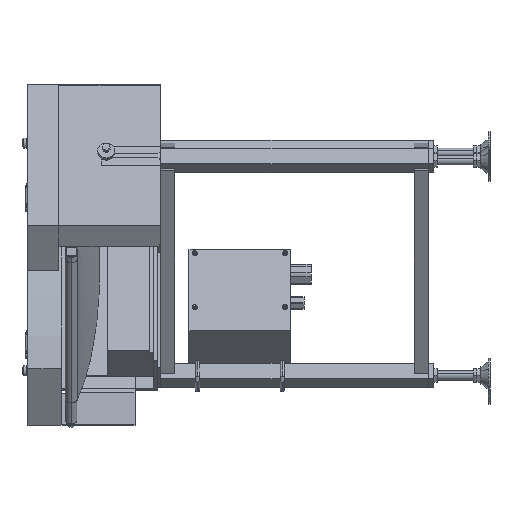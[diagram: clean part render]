
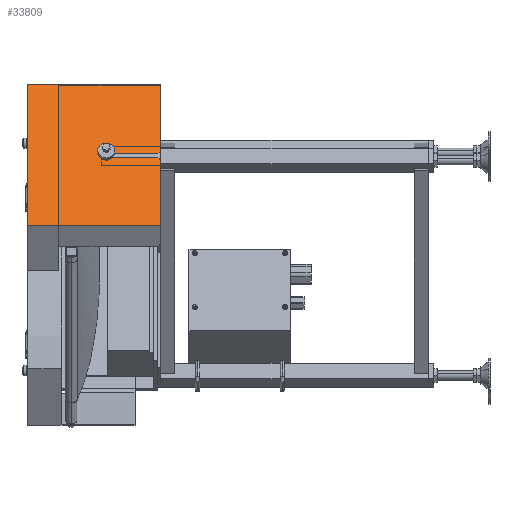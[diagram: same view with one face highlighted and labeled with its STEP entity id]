
A CAD part, left-side view. The second image highlights one B-rep face of the part: STEP entity #33809.
In plain terms, the highlighted planar face has unit normal (-0.866, 0, 0.5).
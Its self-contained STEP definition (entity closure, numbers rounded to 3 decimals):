
#1162 = CARTESIAN_POINT ( 'NONE',  ( 288., 68., 0. ) ) ;
#1414 = DIRECTION ( 'NONE',  ( 0.5, 0., 0.866 ) ) ;
#1723 = CARTESIAN_POINT ( 'NONE',  ( 213.95, -71.1, -128.258 ) ) ;
#2000 = LINE ( 'NONE', #30160, #34763 ) ;
#2404 = ORIENTED_EDGE ( 'NONE', *, *, #36114, .T. ) ;
#3874 = CARTESIAN_POINT ( 'NONE',  ( 216., -167., -124.708 ) ) ;
#4033 = VECTOR ( 'NONE', #28479, 1000. ) ;
#4113 = VECTOR ( 'NONE', #1414, 1000. ) ;
#4552 = EDGE_LOOP ( 'NONE', ( #12565, #48411, #32466, #33959, #44275, #2404, #32550, #7258, #17050, #47428 ) ) ;
#4709 = EDGE_CURVE ( 'NONE', #30473, #7906, #5954, .T. ) ;
#5244 = CARTESIAN_POINT ( 'NONE',  ( 213.95, -71.1, -128.258 ) ) ;
#5954 = LINE ( 'NONE', #3874, #21738 ) ;
#6591 = VECTOR ( 'NONE', #20222, 1000. ) ;
#7258 = ORIENTED_EDGE ( 'NONE', *, *, #20406, .F. ) ;
#7874 = DIRECTION ( 'NONE',  ( 0.866, 0., -0.5 ) ) ;
#7904 = CARTESIAN_POINT ( 'NONE',  ( 177.725, -234.45, -191.002 ) ) ;
#7906 = VERTEX_POINT ( 'NONE', #8535 ) ;
#8334 = DIRECTION ( 'NONE',  ( 0., 1., 0. ) ) ;
#8535 = CARTESIAN_POINT ( 'NONE',  ( 220.55, -167., -116.827 ) ) ;
#9144 = VECTOR ( 'NONE', #40032, 1000. ) ;
#9151 = EDGE_CURVE ( 'NONE', #12205, #32984, #43753, .T. ) ;
#10532 = LINE ( 'NONE', #39132, #4113 ) ;
#11952 = CARTESIAN_POINT ( 'NONE',  ( 144., 68., -249.415 ) ) ;
#12205 = VERTEX_POINT ( 'NONE', #45501 ) ;
#12565 = ORIENTED_EDGE ( 'NONE', *, *, #28493, .F. ) ;
#12970 = LINE ( 'NONE', #5244, #6591 ) ;
#12978 = CARTESIAN_POINT ( 'NONE',  ( 211.45, -167., -132.588 ) ) ;
#14759 = VERTEX_POINT ( 'NONE', #33333 ) ;
#15023 = VERTEX_POINT ( 'NONE', #12978 ) ;
#15534 = VECTOR ( 'NONE', #23669, 1000. ) ;
#16075 = VERTEX_POINT ( 'NONE', #1162 ) ;
#16311 = CARTESIAN_POINT ( 'NONE',  ( 288., -167., 0. ) ) ;
#17050 = ORIENTED_EDGE ( 'NONE', *, *, #32987, .F. ) ;
#20222 = DIRECTION ( 'NONE',  ( 0., -1., 0. ) ) ;
#20406 = EDGE_CURVE ( 'NONE', #16075, #30473, #32567, .T. ) ;
#20743 = VERTEX_POINT ( 'NONE', #11952 ) ;
#21738 = VECTOR ( 'NONE', #48445, 1000. ) ;
#21869 = DIRECTION ( 'NONE',  ( 0., -1., 0. ) ) ;
#21930 = CARTESIAN_POINT ( 'NONE',  ( 216., -71.1, -124.708 ) ) ;
#23048 = VERTEX_POINT ( 'NONE', #42055 ) ;
#23535 = VERTEX_POINT ( 'NONE', #30090 ) ;
#23669 = DIRECTION ( 'NONE',  ( 0., 1., 0. ) ) ;
#24677 = EDGE_CURVE ( 'NONE', #23048, #12205, #2000, .T. ) ;
#25335 = DIRECTION ( 'NONE',  ( -0.866, 0., 0.5 ) ) ;
#25527 = EDGE_CURVE ( 'NONE', #32984, #23535, #12970, .T. ) ;
#28315 = CARTESIAN_POINT ( 'NONE',  ( 216., -167., -124.708 ) ) ;
#28388 = LINE ( 'NONE', #45436, #15534 ) ;
#28479 = DIRECTION ( 'NONE',  ( -0.5, 0., -0.866 ) ) ;
#28493 = EDGE_CURVE ( 'NONE', #15023, #14759, #33858, .T. ) ;
#30090 = CARTESIAN_POINT ( 'NONE',  ( 213.95, -162., -128.258 ) ) ;
#30160 = CARTESIAN_POINT ( 'NONE',  ( 218.05, -71.1, -121.157 ) ) ;
#30333 = AXIS2_PLACEMENT_3D ( 'NONE', #41705, #7874, #8334 ) ;
#30473 = VERTEX_POINT ( 'NONE', #16311 ) ;
#30776 = VECTOR ( 'NONE', #21869, 1000. ) ;
#30925 = FACE_OUTER_BOUND ( 'NONE', #4552, .T. ) ;
#31114 = VECTOR ( 'NONE', #41412, 1000. ) ;
#31807 = EDGE_CURVE ( 'NONE', #15023, #23535, #41095, .T. ) ;
#32466 = ORIENTED_EDGE ( 'NONE', *, *, #25527, .F. ) ;
#32550 = ORIENTED_EDGE ( 'NONE', *, *, #4709, .F. ) ;
#32567 = LINE ( 'NONE', #36772, #30776 ) ;
#32984 = VERTEX_POINT ( 'NONE', #1723 ) ;
#32987 = EDGE_CURVE ( 'NONE', #20743, #16075, #10532, .T. ) ;
#33333 = CARTESIAN_POINT ( 'NONE',  ( 144., -167., -249.415 ) ) ;
#33809 = ADVANCED_FACE ( 'NONE', ( #30925 ), #45564, .F. ) ;
#33858 = LINE ( 'NONE', #28315, #4033 ) ;
#33959 = ORIENTED_EDGE ( 'NONE', *, *, #9151, .F. ) ;
#34763 = VECTOR ( 'NONE', #48437, 1000. ) ;
#36114 = EDGE_CURVE ( 'NONE', #23048, #7906, #40750, .T. ) ;
#36772 = CARTESIAN_POINT ( 'NONE',  ( 288., -167., 0. ) ) ;
#38914 = EDGE_CURVE ( 'NONE', #14759, #20743, #28388, .T. ) ;
#39132 = CARTESIAN_POINT ( 'NONE',  ( 144., 68., -249.415 ) ) ;
#39145 = AXIS2_PLACEMENT_3D ( 'NONE', #21930, #25335, #48074 ) ;
#40032 = DIRECTION ( 'NONE',  ( 0.354, -0.707, 0.612 ) ) ;
#40184 = CARTESIAN_POINT ( 'NONE',  ( 182.275, -90.45, -183.121 ) ) ;
#40750 = LINE ( 'NONE', #40184, #9144 ) ;
#41095 = LINE ( 'NONE', #7904, #31114 ) ;
#41412 = DIRECTION ( 'NONE',  ( 0.354, 0.707, 0.612 ) ) ;
#41705 = CARTESIAN_POINT ( 'NONE',  ( 144., -167., -249.415 ) ) ;
#42055 = CARTESIAN_POINT ( 'NONE',  ( 218.05, -162., -121.157 ) ) ;
#43753 = CIRCLE ( 'NONE', #39145, 4.1 ) ;
#44275 = ORIENTED_EDGE ( 'NONE', *, *, #24677, .F. ) ;
#45436 = CARTESIAN_POINT ( 'NONE',  ( 144., -167., -249.415 ) ) ;
#45501 = CARTESIAN_POINT ( 'NONE',  ( 218.05, -71.1, -121.157 ) ) ;
#45564 = PLANE ( 'NONE',  #30333 ) ;
#47428 = ORIENTED_EDGE ( 'NONE', *, *, #38914, .F. ) ;
#48074 = DIRECTION ( 'NONE',  ( 0.5, 0., 0.866 ) ) ;
#48411 = ORIENTED_EDGE ( 'NONE', *, *, #31807, .T. ) ;
#48437 = DIRECTION ( 'NONE',  ( 0., 1., 0. ) ) ;
#48445 = DIRECTION ( 'NONE',  ( -0.5, 0., -0.866 ) ) ;
